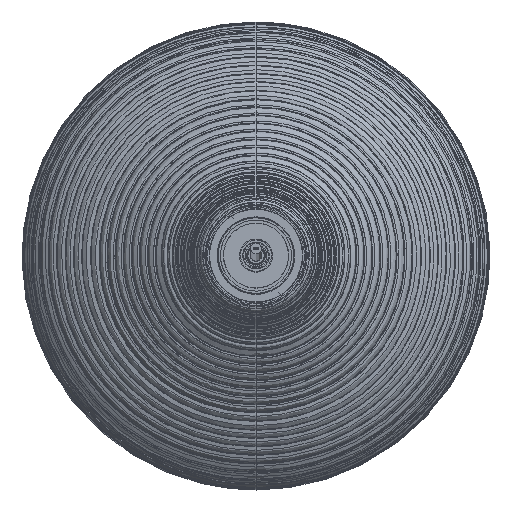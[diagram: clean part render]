
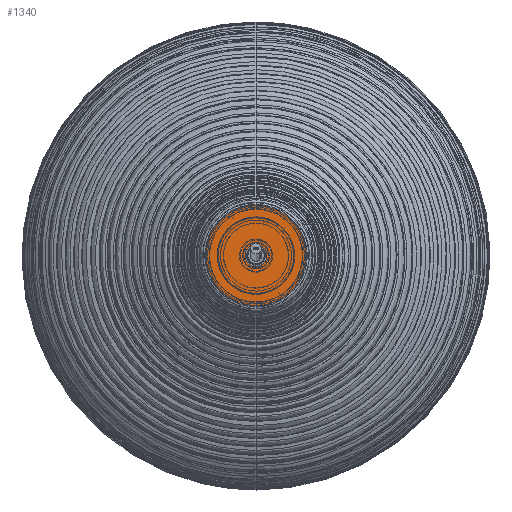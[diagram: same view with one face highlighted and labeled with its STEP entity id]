
A CAD part, top view. The second image highlights one B-rep face of the part: STEP entity #1340.
In plain terms, the highlighted planar face has unit normal (0, 0, 1).
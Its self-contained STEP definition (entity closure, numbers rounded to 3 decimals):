
#102=FACE_BOUND('',#7754,.T.);
#1340=ADVANCED_FACE('',(#4528,#102),#47900,.T.);
#4528=FACE_OUTER_BOUND('',#7753,.T.);
#7753=EDGE_LOOP('',(#15732,#15733));
#7754=EDGE_LOOP('',(#15734,#15735,#15736,#15737,#15738));
#15732=ORIENTED_EDGE('',*,*,#29120,.F.);
#15733=ORIENTED_EDGE('',*,*,#29140,.F.);
#15734=ORIENTED_EDGE('',*,*,#29147,.T.);
#15735=ORIENTED_EDGE('',*,*,#29132,.T.);
#15736=ORIENTED_EDGE('',*,*,#29142,.T.);
#15737=ORIENTED_EDGE('',*,*,#29112,.T.);
#15738=ORIENTED_EDGE('',*,*,#29133,.T.);
#29112=EDGE_CURVE('',#44330,#44331,#41153,.T.);
#29120=EDGE_CURVE('',#44338,#44339,#41159,.T.);
#29132=EDGE_CURVE('',#44348,#44349,#35555,.T.);
#29133=EDGE_CURVE('',#44331,#44350,#35556,.T.);
#29140=EDGE_CURVE('',#44339,#44338,#41171,.T.);
#29142=EDGE_CURVE('',#44349,#44330,#41173,.T.);
#29147=EDGE_CURVE('',#44350,#44348,#41176,.T.);
#35555=B_SPLINE_CURVE_WITH_KNOTS('',1,(#215360,#215361),.UNSPECIFIED.,.F.,
 .F.,(2,2),(0.,3.676),.UNSPECIFIED.);
#35556=B_SPLINE_CURVE_WITH_KNOTS('',1,(#215362,#215363),.UNSPECIFIED.,.F.,
 .F.,(2,2),(0.,3.676),.UNSPECIFIED.);
#41153=(
BOUNDED_CURVE()
B_SPLINE_CURVE(2,(#215296,#215297,#215298),.UNSPECIFIED.,.F.,.F.)
B_SPLINE_CURVE_WITH_KNOTS((3,3),(-5.972,0.),.UNSPECIFIED.)
CURVE()
GEOMETRIC_REPRESENTATION_ITEM()
RATIONAL_B_SPLINE_CURVE((1.,0.827,1.))
REPRESENTATION_ITEM('')
);
#41159=(
BOUNDED_CURVE()
B_SPLINE_CURVE(2,(#215322,#215323,#215324,#215325,#215326),
 .UNSPECIFIED.,.F.,.F.)
B_SPLINE_CURVE_WITH_KNOTS((3,2,3),(0.,42.883,85.765),
 .UNSPECIFIED.)
CURVE()
GEOMETRIC_REPRESENTATION_ITEM()
RATIONAL_B_SPLINE_CURVE((1.,0.707,1.,0.707,1.))
REPRESENTATION_ITEM('')
);
#41171=(
BOUNDED_CURVE()
B_SPLINE_CURVE(2,(#215386,#215387,#215388,#215389,#215390),
 .UNSPECIFIED.,.F.,.F.)
B_SPLINE_CURVE_WITH_KNOTS((3,2,3),(0.,42.883,85.765),
 .UNSPECIFIED.)
CURVE()
GEOMETRIC_REPRESENTATION_ITEM()
RATIONAL_B_SPLINE_CURVE((1.,0.707,1.,0.707,1.))
REPRESENTATION_ITEM('')
);
#41173=(
BOUNDED_CURVE()
B_SPLINE_CURVE(2,(#215396,#215397,#215398),.UNSPECIFIED.,.F.,.F.)
B_SPLINE_CURVE_WITH_KNOTS((3,3),(-5.972,0.),.UNSPECIFIED.)
CURVE()
GEOMETRIC_REPRESENTATION_ITEM()
RATIONAL_B_SPLINE_CURVE((1.,0.827,1.))
REPRESENTATION_ITEM('')
);
#41176=(
BOUNDED_CURVE()
B_SPLINE_CURVE(2,(#215411,#215412,#215413,#215414,#215415),
 .UNSPECIFIED.,.F.,.F.)
B_SPLINE_CURVE_WITH_KNOTS((3,2,3),(-11.944,-5.972,
0.),.UNSPECIFIED.)
CURVE()
GEOMETRIC_REPRESENTATION_ITEM()
RATIONAL_B_SPLINE_CURVE((1.,0.827,1.,0.827,1.))
REPRESENTATION_ITEM('')
);
#44330=VERTEX_POINT('',#215272);
#44331=VERTEX_POINT('',#215273);
#44338=VERTEX_POINT('',#215280);
#44339=VERTEX_POINT('',#215281);
#44348=VERTEX_POINT('',#215290);
#44349=VERTEX_POINT('',#215291);
#44350=VERTEX_POINT('',#215292);
#47900=PLANE('',#51056);
#51056=AXIS2_PLACEMENT_3D('',#215033,#52016,$);
#52016=DIRECTION('',(0.,0.,1.));
#215033=CARTESIAN_POINT('',(14.752,-110.532,366.349));
#215272=CARTESIAN_POINT('',(4.477,-68.839,366.349));
#215273=CARTESIAN_POINT('',(-0.424,-71.595,366.349));
#215280=CARTESIAN_POINT('',(-12.153,-91.059,366.349));
#215281=CARTESIAN_POINT('',(12.153,-42.167,366.349));
#215290=CARTESIAN_POINT('',(0.424,-61.631,366.349));
#215291=CARTESIAN_POINT('',(3.716,-63.267,366.349));
#215292=CARTESIAN_POINT('',(-3.716,-69.959,366.349));
#215296=CARTESIAN_POINT('',(4.477,-68.839,366.349));
#215297=CARTESIAN_POINT('',(2.964,-71.884,366.349));
#215298=CARTESIAN_POINT('',(-0.424,-71.595,366.349));
#215322=CARTESIAN_POINT('',(-12.153,-91.059,366.349));
#215323=CARTESIAN_POINT('',(-36.599,-78.906,366.349));
#215324=CARTESIAN_POINT('',(-24.446,-54.46,366.349));
#215325=CARTESIAN_POINT('',(-12.293,-30.015,366.349));
#215326=CARTESIAN_POINT('',(12.153,-42.167,366.349));
#215360=CARTESIAN_POINT('',(0.424,-61.631,366.349));
#215361=CARTESIAN_POINT('',(3.716,-63.267,366.349));
#215362=CARTESIAN_POINT('',(-0.424,-71.595,366.349));
#215363=CARTESIAN_POINT('',(-3.716,-69.959,366.349));
#215386=CARTESIAN_POINT('',(12.153,-42.167,366.349));
#215387=CARTESIAN_POINT('',(36.599,-54.32,366.349));
#215388=CARTESIAN_POINT('',(24.446,-78.766,366.349));
#215389=CARTESIAN_POINT('',(12.293,-103.212,366.349));
#215390=CARTESIAN_POINT('',(-12.153,-91.059,366.349));
#215396=CARTESIAN_POINT('',(3.716,-63.267,366.349));
#215397=CARTESIAN_POINT('',(5.991,-65.794,366.349));
#215398=CARTESIAN_POINT('',(4.477,-68.839,366.349));
#215411=CARTESIAN_POINT('',(-3.716,-69.959,366.349));
#215412=CARTESIAN_POINT('',(-5.991,-67.432,366.349));
#215413=CARTESIAN_POINT('',(-4.477,-64.387,366.349));
#215414=CARTESIAN_POINT('',(-2.964,-61.343,366.349));
#215415=CARTESIAN_POINT('',(0.424,-61.631,366.349));
